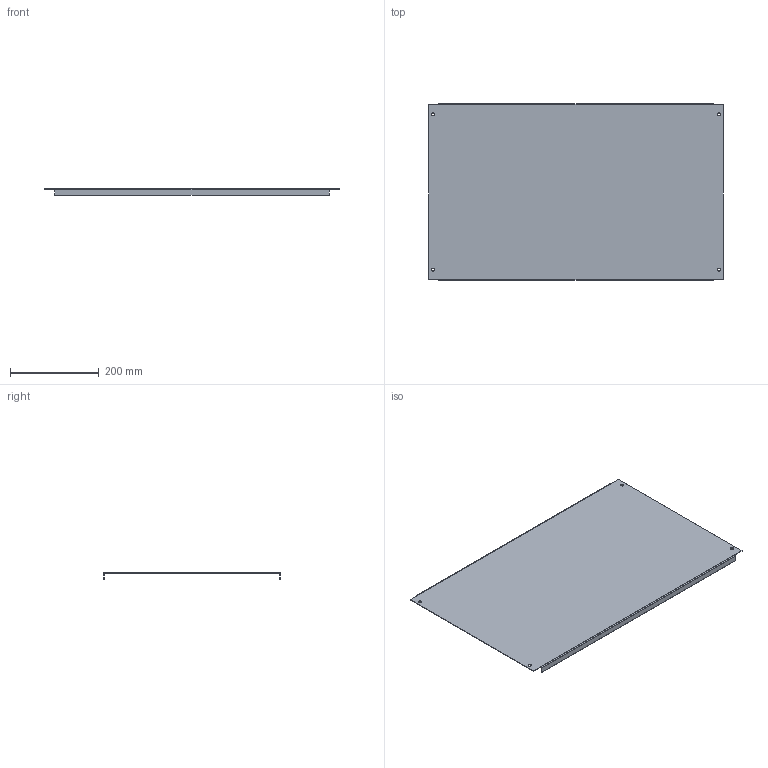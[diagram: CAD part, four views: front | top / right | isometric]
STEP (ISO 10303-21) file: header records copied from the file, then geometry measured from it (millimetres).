
FILE_DESCRIPTION (( 'STEP AP203' ), '1' );
FILE_NAME ('MB 40.70 Ïàíåëü ìîäóëüíàÿ.STEP', '2012-11-21T07:16:13', ( 'system' ), ( '' ), 'SwSTEP 2.0', 'SolidWorks 2012', '' );
FILE_SCHEMA (( 'CONFIG_CONTROL_DESIGN' ));
Length unit declared in the file: millimetre
Products named in the file (1): MB 40.70 Ïàíåëü ìîäóëüíàÿ
Bounding box: 665 x 399 x 15 mm (x, y, z)
Volume: 337305.9 mm3; surface area: 564898.1 mm2
Topology: 1 solids, 1 shells, 34 faces, 80 edges, 48 vertices
Faces by surface type: plane 22, cylinder 12
Entity records: 1053 total; most frequent: DIRECTION 174, CARTESIAN_POINT 163, ORIENTED_EDGE 160, EDGE_CURVE 80, AXIS2_PLACEMENT_3D 59, LINE 56, VECTOR 56, VERTEX_POINT 48
